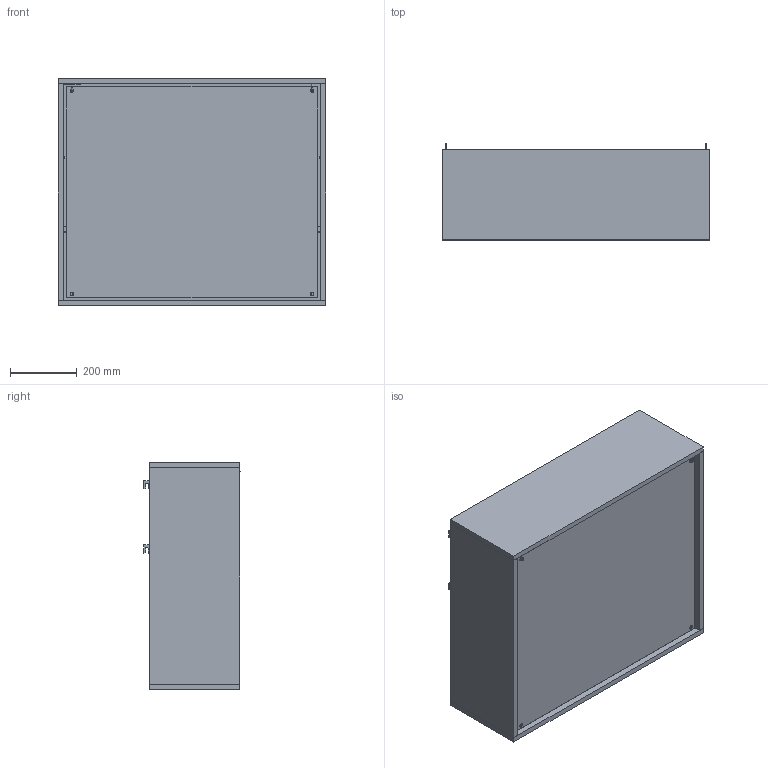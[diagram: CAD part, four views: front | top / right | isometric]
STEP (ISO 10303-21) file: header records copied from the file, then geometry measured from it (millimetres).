
FILE_DESCRIPTION(/* description */ (''),/* implementation_level */ '2;1');
FILE_NAME(/* name */ 'FRAMA_Shelf_Library_Cabinet_Canvas_3D_File',/* time_stamp */ '2023-05-25T11:46:39+02:00',/* author */ (''),/* organization */ (''),/* preprocessor_version */ 'ST-DEVELOPER v16.5',/* originating_system */ 'Rhino 7.29',/* authorisation */ '');
FILE_SCHEMA (('CONFIG_CONTROL_DESIGN'));
Length unit declared in the file: millimetre
Products named in the file (11): Document; Welded hook extended v1; Pin v1; Cabinet hook mounting Screw v2; Cabinet Mount Hook v2; Canvas_V2 v8; curtain eyelet v3; Cabinet shelf v4; Cabinet Bottom Panel v2; Cabinet 680_Back panel v5; Cabinet Top Panel v6
Assembly tree (35 placements, depth 3):
  Document
    Welded hook extended v1  x2
    Pin v1  x8
    Cabinet hook mounting Screw v2  x8
    Cabinet Mount Hook v2  x4
    Canvas_V2 v8
      curtain eyelet v3  x8
    Cabinet shelf v4
    Cabinet Bottom Panel v2
    Cabinet 680_Back panel v5
    Cabinet Top Panel v6
Bounding box: 800 x 286.91 x 680 mm (x, y, z)
Volume: 16845810.9 mm3; surface area: 4085140.2 mm2
Topology: 37 solids, 45 shells, 826 faces, 2054 edges, 1324 vertices
Faces by surface type: plane 312, bspline 288, cylinder 226
Entity records: 12288 total; most frequent: CARTESIAN_POINT 6434, ORIENTED_EDGE 1362, EDGE_CURVE 683, B_SPLINE_CURVE_WITH_KNOTS 450, VERTEX_POINT 445, DIRECTION 351, EDGE_LOOP 324, AXIS2_PLACEMENT_3D 294
